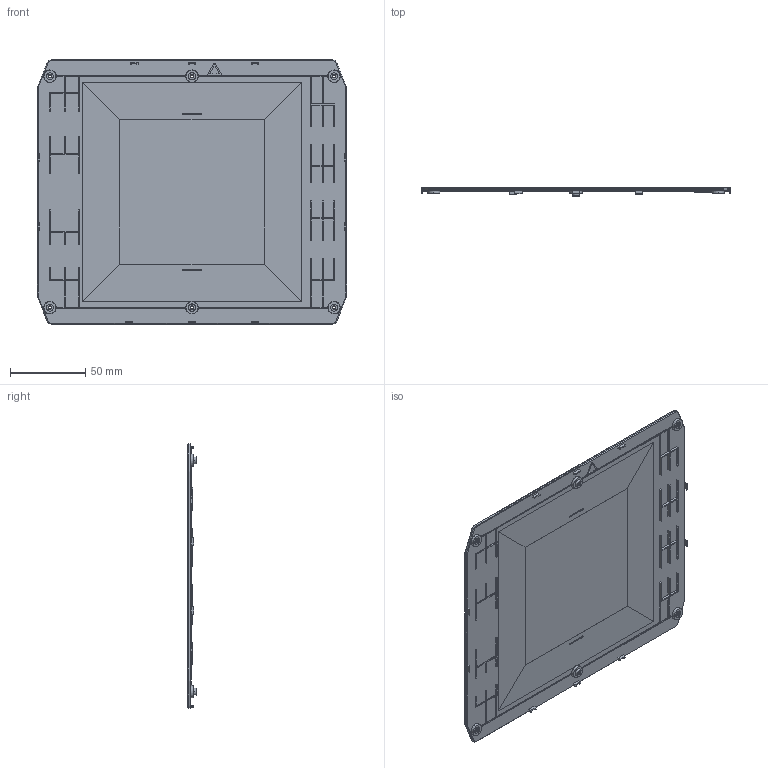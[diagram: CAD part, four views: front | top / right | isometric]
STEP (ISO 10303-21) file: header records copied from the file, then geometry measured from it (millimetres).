
FILE_DESCRIPTION((''),'2;1');
FILE_NAME('PL_PANEL_LID_NAXAD2N','2023-02-03T',('Andy.Hsu'),(''),'CREO PARAMETRIC BY PTC INC, 2015080','CREO PARAMETRIC BY PTC INC, 2015080','');
FILE_SCHEMA(('CONFIG_CONTROL_DESIGN'));
Length unit declared in the file: millimetre
Products named in the file (1): PL_PANEL_LID_NAXAD2N
Bounding box: 205.6 x 5.5 x 175.7 mm (x, y, z)
Volume: 74719.6 mm3; surface area: 75087.2 mm2
Topology: 1 solids, 1 shells, 497 faces, 1627 edges, 1190 vertices
Faces by surface type: plane 360, cylinder 57, cone 48, torus 32
Entity records: 17235 total; most frequent: CARTESIAN_POINT 3124, DIRECTION 2860, ORIENTED_EDGE 2646, EDGE_CURVE 1323, VECTOR 1318, LINE 1318, VERTEX_POINT 856, AXIS2_PLACEMENT_3D 771
